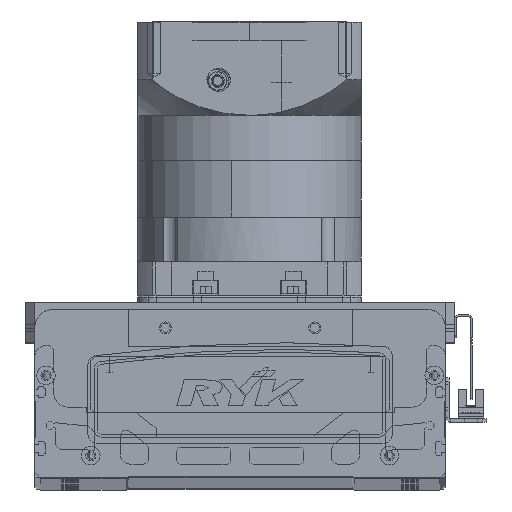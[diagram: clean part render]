
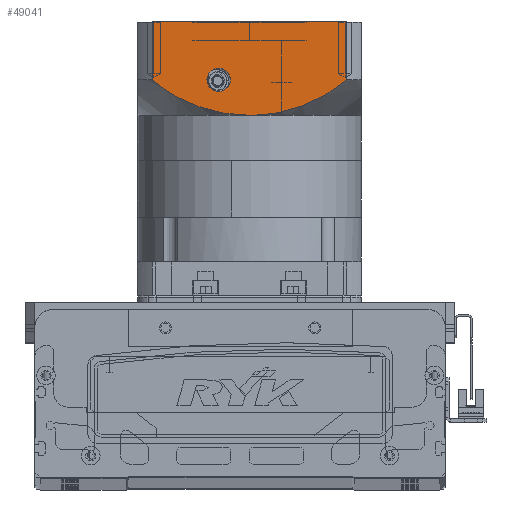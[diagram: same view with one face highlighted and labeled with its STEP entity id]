
A CAD part, top view. The second image highlights one B-rep face of the part: STEP entity #49041.
In plain terms, the highlighted planar face has unit normal (0, 0, 1) as drawn and (0, -1, 0) by its records, which use the part's own axes.
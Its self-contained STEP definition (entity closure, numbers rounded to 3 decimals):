
#26 = EDGE_CURVE ( 'NONE', #60300, #71844, #42143, .T. ) ;
#1517 = VERTEX_POINT ( 'NONE', #64608 ) ;
#2148 = CARTESIAN_POINT ( 'NONE',  ( 16.5, -60., -119.5 ) ) ;
#3151 = DIRECTION ( 'NONE',  ( 0., 0., -1. ) ) ;
#3388 = LINE ( 'NONE', #46194, #35882 ) ;
#4074 = CARTESIAN_POINT ( 'NONE',  ( -12.993, -60., -101.537 ) ) ;
#4592 = CARTESIAN_POINT ( 'NONE',  ( -18.792, -60., -102.562 ) ) ;
#4857 = CARTESIAN_POINT ( 'NONE',  ( -36.409, -60., -109.113 ) ) ;
#5417 = CARTESIAN_POINT ( 'NONE',  ( 0., -60., -100.5 ) ) ;
#7432 = EDGE_CURVE ( 'NONE', #15571, #71844, #66657, .T. ) ;
#8738 = CARTESIAN_POINT ( 'NONE',  ( 16.426, -60., -102.169 ) ) ;
#10472 = CARTESIAN_POINT ( 'NONE',  ( -11.825, -60., -101.356 ) ) ;
#11466 = CIRCLE ( 'NONE', #46701, 6.25 ) ;
#12220 = DIRECTION ( 'NONE',  ( 0., 1., 0. ) ) ;
#12967 = CARTESIAN_POINT ( 'NONE',  ( 52.156, -60., -150.5 ) ) ;
#13814 = CARTESIAN_POINT ( 'NONE',  ( 48.457, -60., -116.522 ) ) ;
#14091 = CARTESIAN_POINT ( 'NONE',  ( 15.267, -60., -101.938 ) ) ;
#14876 = CARTESIAN_POINT ( 'NONE',  ( 19.894, -60., -102.964 ) ) ;
#15571 = VERTEX_POINT ( 'NONE', #12967 ) ;
#16614 = CARTESIAN_POINT ( 'NONE',  ( -4.747, -60., -100.604 ) ) ;
#19225 = EDGE_CURVE ( 'NONE', #69915, #1517, #3388, .T. ) ;
#19339 = EDGE_CURVE ( 'NONE', #69915, #15571, #74174, .T. ) ;
#20303 = DIRECTION ( 'NONE',  ( 0., 0., -1. ) ) ;
#20771 = CARTESIAN_POINT ( 'NONE',  ( 41.545, -60., -111.931 ) ) ;
#21035 = CARTESIAN_POINT ( 'NONE',  ( 42.555, -60., -112.543 ) ) ;
#21625 = DIRECTION ( 'NONE',  ( 0., 0., 1. ) ) ;
#21707 = CARTESIAN_POINT ( 'NONE',  ( -52.156, -60., -119.5 ) ) ;
#22829 = VERTEX_POINT ( 'NONE', #59535 ) ;
#23035 = CARTESIAN_POINT ( 'NONE',  ( -29.939, -60., -106.183 ) ) ;
#23290 = CARTESIAN_POINT ( 'NONE',  ( -2.376, -60., -100.5 ) ) ;
#23441 = CARTESIAN_POINT ( 'NONE',  ( -52.156, -60., -150.5 ) ) ;
#23995 = AXIS2_PLACEMENT_3D ( 'NONE', #30687, #75586, #32800 ) ;
#24317 = ORIENTED_EDGE ( 'NONE', *, *, #57669, .F. ) ;
#24543 = PLANE ( 'NONE',  #23995 ) ;
#26371 = CARTESIAN_POINT ( 'NONE',  ( 45.542, -60., -114.478 ) ) ;
#28663 = CARTESIAN_POINT ( 'NONE',  ( -8.294, -60., -100.916 ) ) ;
#30495 = CARTESIAN_POINT ( 'NONE',  ( 4.753, -60., -100.5 ) ) ;
#30687 = CARTESIAN_POINT ( 'NONE',  ( -60., -60., -150.5 ) ) ;
#32800 = DIRECTION ( 'NONE',  ( 1., 0., 0. ) ) ;
#33049 = CARTESIAN_POINT ( 'NONE',  ( 32.196, -60., -107.007 ) ) ;
#33189 = CARTESIAN_POINT ( 'NONE',  ( -44.656, -60., -113.73 ) ) ;
#33299 = CARTESIAN_POINT ( 'NONE',  ( 23.329, -60., -103.886 ) ) ;
#33634 = EDGE_CURVE ( 'NONE', #22829, #42124, #63735, .T. ) ;
#35024 = CARTESIAN_POINT ( 'NONE',  ( -35.342, -60., -108.587 ) ) ;
#35882 = VECTOR ( 'NONE', #21625, 1000. ) ;
#36506 = DIRECTION ( 'NONE',  ( 1., 0., 0. ) ) ;
#36885 = CARTESIAN_POINT ( 'NONE',  ( 9.454, -60., -100.914 ) ) ;
#39032 = CARTESIAN_POINT ( 'NONE',  ( 52.156, -60., -150.5 ) ) ;
#39061 = CARTESIAN_POINT ( 'NONE',  ( 52.156, -60., -119.5 ) ) ;
#39755 = DIRECTION ( 'NONE',  ( 0., 1., 0. ) ) ;
#40252 = EDGE_LOOP ( 'NONE', ( #52195, #72558 ) ) ;
#41485 = FACE_OUTER_BOUND ( 'NONE', #47854, .T. ) ;
#41646 = VECTOR ( 'NONE', #36506, 1000. ) ;
#42124 = VERTEX_POINT ( 'NONE', #70166 ) ;
#42143 = B_SPLINE_CURVE_WITH_KNOTS ( 'NONE', 3,
 ( #5417, #30495, #36885, #14091, #8738, #51469, #14876, #33299, #57641, #33049, #63536, #20771, #21035, #75291, #26371, #13814, #45049, #69966 ),
 .UNSPECIFIED., .F., .F.,
 ( 4, 2, 2, 2, 2, 2, 2, 2, 4 ),
 ( 0., 0.014, 0.018, 0.021, 0.028, 0.042, 0.046, 0.05, 0.057 ),
 .UNSPECIFIED. ) ;
#43947 = EDGE_CURVE ( 'NONE', #42124, #22829, #11466, .T. ) ;
#45049 = CARTESIAN_POINT ( 'NONE',  ( 50.338, -60., -117.969 ) ) ;
#45155 = DIRECTION ( 'NONE',  ( 0., 0., 1. ) ) ;
#45471 = CARTESIAN_POINT ( 'NONE',  ( -38.51, -60., -110.207 ) ) ;
#46194 = CARTESIAN_POINT ( 'NONE',  ( -52.156, -60., -97.5 ) ) ;
#46701 = AXIS2_PLACEMENT_3D ( 'NONE', #76660, #39755, #3151 ) ;
#47592 = CARTESIAN_POINT ( 'NONE',  ( -9.477, -60., -101.046 ) ) ;
#47854 = EDGE_LOOP ( 'NONE', ( #66864, #77827, #60606, #54440, #24317 ) ) ;
#48274 = CARTESIAN_POINT ( 'NONE',  ( -60., -60., -150.5 ) ) ;
#49041 = ADVANCED_FACE ( 'NONE', ( #41485, #75931 ), #24543, .T. ) ;
#49107 = AXIS2_PLACEMENT_3D ( 'NONE', #2148, #12220, #20303 ) ;
#50348 = VECTOR ( 'NONE', #45155, 1000. ) ;
#51469 = CARTESIAN_POINT ( 'NONE',  ( 18.739, -60., -102.681 ) ) ;
#52195 = ORIENTED_EDGE ( 'NONE', *, *, #43947, .T. ) ;
#52692 = B_SPLINE_CURVE_WITH_KNOTS ( 'NONE', 3,
 ( #21707, #64474, #33189, #75979, #45471, #4857, #35024, #71194, #23035, #71711, #4592, #4074, #10472, #47592, #28663, #16614, #23290, #77837 ),
 .UNSPECIFIED., .F., .F.,
 ( 4, 2, 2, 2, 2, 2, 2, 2, 4 ),
 ( 0., 0.014, 0.018, 0.021, 0.028, 0.042, 0.046, 0.05, 0.057 ),
 .UNSPECIFIED. ) ;
#54440 = ORIENTED_EDGE ( 'NONE', *, *, #26, .F. ) ;
#57641 = CARTESIAN_POINT ( 'NONE',  ( 25.577, -60., -104.596 ) ) ;
#57669 = EDGE_CURVE ( 'NONE', #1517, #60300, #52692, .T. ) ;
#59531 = CARTESIAN_POINT ( 'NONE',  ( 0., -60., -100.5 ) ) ;
#59535 = CARTESIAN_POINT ( 'NONE',  ( 16.5, -60., -113.25 ) ) ;
#60300 = VERTEX_POINT ( 'NONE', #59531 ) ;
#60606 = ORIENTED_EDGE ( 'NONE', *, *, #7432, .T. ) ;
#63536 = CARTESIAN_POINT ( 'NONE',  ( 36.444, -60., -108.986 ) ) ;
#63735 = CIRCLE ( 'NONE', #49107, 6.25 ) ;
#64474 = CARTESIAN_POINT ( 'NONE',  ( -48.52, -60., -116.438 ) ) ;
#64608 = CARTESIAN_POINT ( 'NONE',  ( -52.156, -60., -119.5 ) ) ;
#66657 = LINE ( 'NONE', #39032, #50348 ) ;
#66864 = ORIENTED_EDGE ( 'NONE', *, *, #19225, .F. ) ;
#69915 = VERTEX_POINT ( 'NONE', #23441 ) ;
#69966 = CARTESIAN_POINT ( 'NONE',  ( 52.156, -60., -119.5 ) ) ;
#70166 = CARTESIAN_POINT ( 'NONE',  ( 16.5, -60., -125.75 ) ) ;
#71194 = CARTESIAN_POINT ( 'NONE',  ( -32.118, -60., -107.084 ) ) ;
#71711 = CARTESIAN_POINT ( 'NONE',  ( -23.319, -60., -103.777 ) ) ;
#71844 = VERTEX_POINT ( 'NONE', #39061 ) ;
#72558 = ORIENTED_EDGE ( 'NONE', *, *, #33634, .T. ) ;
#74174 = LINE ( 'NONE', #48274, #41646 ) ;
#75291 = CARTESIAN_POINT ( 'NONE',  ( 44.553, -60., -113.817 ) ) ;
#75586 = DIRECTION ( 'NONE',  ( 0., -1., 0. ) ) ;
#75931 = FACE_BOUND ( 'NONE', #40252, .T. ) ;
#75979 = CARTESIAN_POINT ( 'NONE',  ( -39.546, -60., -110.776 ) ) ;
#76660 = CARTESIAN_POINT ( 'NONE',  ( 16.5, -60., -119.5 ) ) ;
#77827 = ORIENTED_EDGE ( 'NONE', *, *, #19339, .T. ) ;
#77837 = CARTESIAN_POINT ( 'NONE',  ( 0., -60., -100.5 ) ) ;
